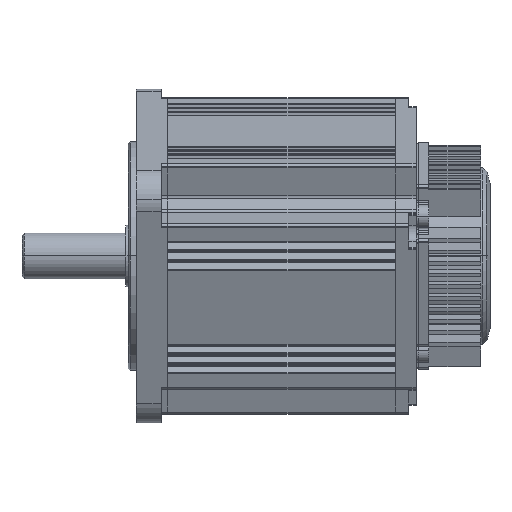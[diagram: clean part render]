
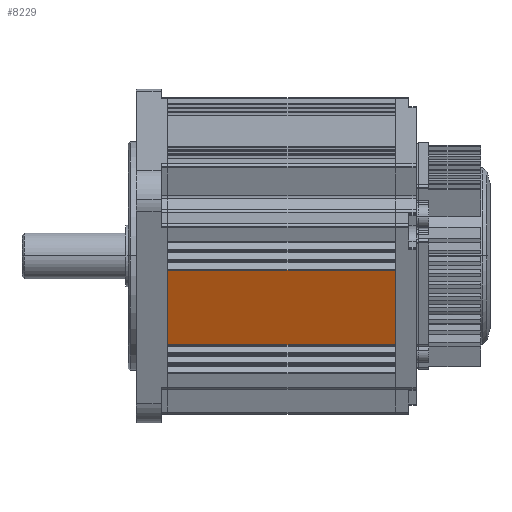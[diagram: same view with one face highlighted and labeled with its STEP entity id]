
A CAD part, top view. The second image highlights one B-rep face of the part: STEP entity #8229.
In plain terms, the highlighted planar face has unit normal (0, -0.382, 0.924).
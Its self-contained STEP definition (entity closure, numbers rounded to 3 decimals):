
#1295 = DIRECTION ( 'NONE',  ( 0., 0.924, 0.382 ) ) ;
#2506 = CARTESIAN_POINT ( 'NONE',  ( 91.624, -44.468, 52.702 ) ) ;
#3760 = CARTESIAN_POINT ( 'NONE',  ( 91.624, -8.781, 67.447 ) ) ;
#6869 = VECTOR ( 'NONE', #31615, 1000. ) ;
#7669 = PLANE ( 'NONE',  #24775 ) ;
#8229 = ADVANCED_FACE ( 'NONE', ( #45166 ), #7669, .F. ) ;
#8241 = VERTEX_POINT ( 'NONE', #48728 ) ;
#8975 = DIRECTION ( 'NONE',  ( 1., 0., 0. ) ) ;
#13810 = DIRECTION ( 'NONE',  ( 0., 0.382, -0.924 ) ) ;
#14736 = VERTEX_POINT ( 'NONE', #3760 ) ;
#15295 = DIRECTION ( 'NONE',  ( 0., 0.924, 0.382 ) ) ;
#18443 = ORIENTED_EDGE ( 'NONE', *, *, #37018, .T. ) ;
#18688 = CARTESIAN_POINT ( 'NONE',  ( 91.624, -44.468, 52.702 ) ) ;
#19356 = VECTOR ( 'NONE', #1295, 1000. ) ;
#24775 = AXIS2_PLACEMENT_3D ( 'NONE', #53524, #13810, #44305 ) ;
#25010 = VERTEX_POINT ( 'NONE', #27134 ) ;
#27020 = LINE ( 'NONE', #2506, #38247 ) ;
#27134 = CARTESIAN_POINT ( 'NONE',  ( -17.876, -8.781, 67.447 ) ) ;
#27544 = LINE ( 'NONE', #38027, #39428 ) ;
#31615 = DIRECTION ( 'NONE',  ( -1., 0., 0. ) ) ;
#33009 = ORIENTED_EDGE ( 'NONE', *, *, #49186, .F. ) ;
#33482 = EDGE_CURVE ( 'NONE', #39932, #8241, #48518, .T. ) ;
#37018 = EDGE_CURVE ( 'NONE', #39932, #14736, #27020, .T. ) ;
#38027 = CARTESIAN_POINT ( 'NONE',  ( 36.874, -8.781, 67.447 ) ) ;
#38048 = ORIENTED_EDGE ( 'NONE', *, *, #38680, .F. ) ;
#38247 = VECTOR ( 'NONE', #15295, 1000. ) ;
#38680 = EDGE_CURVE ( 'NONE', #25010, #14736, #27544, .T. ) ;
#39428 = VECTOR ( 'NONE', #8975, 1000. ) ;
#39932 = VERTEX_POINT ( 'NONE', #18688 ) ;
#40511 = ORIENTED_EDGE ( 'NONE', *, *, #33482, .F. ) ;
#41858 = LINE ( 'NONE', #52441, #19356 ) ;
#44305 = DIRECTION ( 'NONE',  ( -1., 0., 0. ) ) ;
#44927 = CARTESIAN_POINT ( 'NONE',  ( 36.874, -44.468, 52.702 ) ) ;
#45166 = FACE_OUTER_BOUND ( 'NONE', #53287, .T. ) ;
#48518 = LINE ( 'NONE', #44927, #6869 ) ;
#48728 = CARTESIAN_POINT ( 'NONE',  ( -17.876, -44.468, 52.702 ) ) ;
#49186 = EDGE_CURVE ( 'NONE', #8241, #25010, #41858, .T. ) ;
#52441 = CARTESIAN_POINT ( 'NONE',  ( -17.876, -86.699, 35.254 ) ) ;
#53287 = EDGE_LOOP ( 'NONE', ( #40511, #18443, #38048, #33009 ) ) ;
#53524 = CARTESIAN_POINT ( 'NONE',  ( 91.624, -44.468, 52.702 ) ) ;
